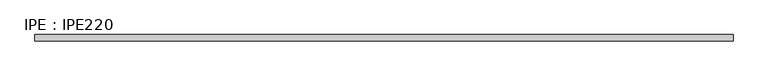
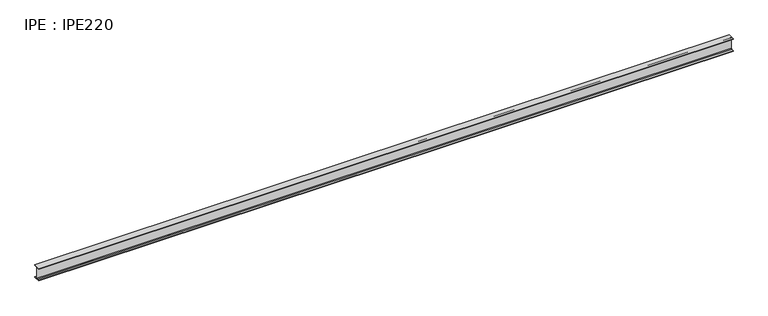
"""IFC4 building model written with IfcOpenShell, lengths in millimetres: beam geometry, IPE : IPE220."""

from ifc_helpers import new_model, si_unit, point, frame, frame_2d, origin, place, context, project, spatial, polyline, circle_curve, trimmed, segment, composite_curve, outline, extrude, source, transform, mapped, element, save


def ipe_ipe220_de1e4bab(model_context):
    return source(origin(), model_context, "Body", "SweptSolid", [
        extrude(outline(composite_curve([segment(polyline([(55.0, -100.8), (55.0, -110.0), (-55.0, -110.0), (-55.0, -100.8), (-14.95, -100.8)]), True, "CONTINUOUS"), segment(trimmed(circle_curve(frame_2d((-14.95, -88.8)), 12.0), [point((-14.95, -100.8))], [point((-2.95, -88.8))], True, "CARTESIAN"), True, "CONTINUOUS"), segment(polyline([(-2.95, -88.8), (-2.95, 88.8)]), True, "CONTINUOUS"), segment(trimmed(circle_curve(frame_2d((-14.95, 88.8)), 12.0), [point((-2.95, 88.8))], [point((-14.95, 100.8))], True, "CARTESIAN"), True, "CONTINUOUS"), segment(polyline([(-14.95, 100.8), (-55.0, 100.8), (-55.0, 110.0), (55.0, 110.0), (55.0, 100.8), (14.95, 100.8)]), True, "CONTINUOUS"), segment(trimmed(circle_curve(frame_2d((14.95, 88.8)), 12.0), [point((14.95, 100.8))], [point((2.95, 88.8))], True, "CARTESIAN"), True, "CONTINUOUS"), segment(polyline([(2.95, 88.8), (2.95, -88.8)]), True, "CONTINUOUS"), segment(trimmed(circle_curve(frame_2d((14.95, -88.8)), 12.0), [point((2.95, -88.8))], [point((14.95, -100.8))], True, "CARTESIAN"), True, "CONTINUOUS"), segment(polyline([(14.95, -100.8), (55.0, -100.8)]), True, "CONTINUOUS")], self_intersect=False)), frame((-5846.7, 0.0, 0.0), z_axis=(1.0, 0.0, 0.0), x_axis=(0.0, 1.0, 0.0)), (0.0, 0.0, 1.0), 11683.0),
    ])


if __name__ == "__main__":
    model = new_model("IFC4")
    model_context = context("Model", 3, world=origin())
    ifc_project = project(units=[si_unit("LENGTHUNIT", "METRE", prefix="MILLI")], contexts=[model_context])
    site = spatial("IfcSite", under=ifc_project)
    building = spatial("IfcBuilding", under=site)
    placement = place(None, origin())
    ipe_ipe220_shape = ipe_ipe220_de1e4bab(model_context)
    element("IfcBeam", 1, ObjectType="IPE : IPE220", at=placement, inside=building, context=model_context, shape_type="MappedRepresentation", body=[
        mapped(ipe_ipe220_shape, transform((0.0, 0.0, 0.0), x_axis=(1.0, 0.0, 0.0), y_axis=(0.0, 1.0, 0.0), z_axis=(0.0, 0.0, 1.0))),
    ])
    save(model, "model.ifc")
